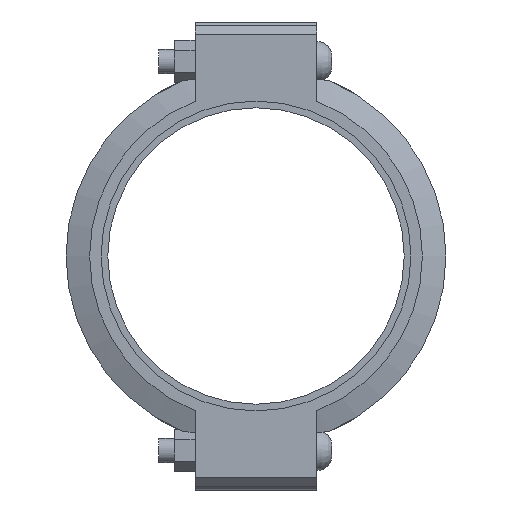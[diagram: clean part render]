
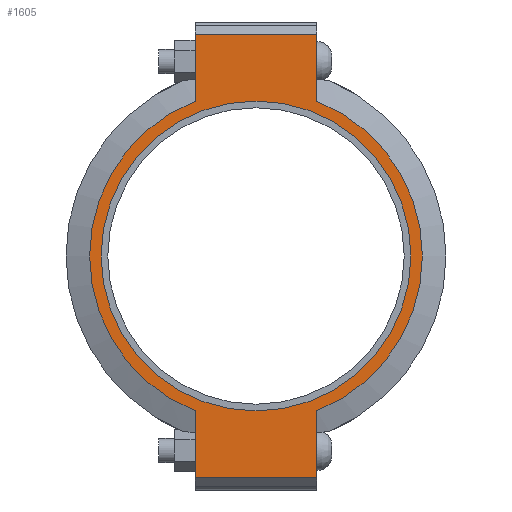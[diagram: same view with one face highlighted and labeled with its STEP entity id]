
A CAD part, left-side view. The second image highlights one B-rep face of the part: STEP entity #1605.
In plain terms, the highlighted planar face has unit normal (-1, 0, 0) as drawn and (0, 0, 1) by its records, which use the part's own axes.
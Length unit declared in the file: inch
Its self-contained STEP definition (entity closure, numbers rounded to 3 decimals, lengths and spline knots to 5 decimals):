
#176=LINE('',#2773,#265);
#187=LINE('',#2824,#276);
#193=LINE('',#2850,#282);
#195=LINE('',#2853,#284);
#196=LINE('',#2858,#285);
#197=LINE('',#2859,#286);
#265=VECTOR('',#2261,0.3937);
#276=VECTOR('',#2292,0.3937);
#282=VECTOR('',#2310,0.3937);
#284=VECTOR('',#2314,0.3937);
#285=VECTOR('',#2319,0.3937);
#286=VECTOR('',#2320,0.3937);
#348=FACE_BOUND('',#525,.T.);
#416=FACE_OUTER_BOUND('',#524,.T.);
#524=EDGE_LOOP('',(#1300,#1301,#1302,#1303,#1304,#1305,#1306,#1307));
#525=EDGE_LOOP('',(#1308));
#607=CIRCLE('',#1833,6.375);
#631=CIRCLE('',#1885,6.84375);
#632=CIRCLE('',#1886,6.84375);
#703=VERTEX_POINT('',#2599);
#744=VERTEX_POINT('',#2770);
#745=VERTEX_POINT('',#2772);
#762=VERTEX_POINT('',#2819);
#763=VERTEX_POINT('',#2823);
#770=VERTEX_POINT('',#2845);
#771=VERTEX_POINT('',#2849);
#772=VERTEX_POINT('',#2855);
#773=VERTEX_POINT('',#2857);
#867=EDGE_CURVE('',#703,#703,#607,.T.);
#924=EDGE_CURVE('',#745,#744,#176,.T.);
#945=EDGE_CURVE('',#763,#762,#187,.T.);
#956=EDGE_CURVE('',#771,#770,#193,.T.);
#958=EDGE_CURVE('',#771,#744,#195,.T.);
#959=EDGE_CURVE('',#770,#772,#631,.T.);
#960=EDGE_CURVE('',#772,#773,#196,.T.);
#961=EDGE_CURVE('',#763,#773,#197,.T.);
#962=EDGE_CURVE('',#762,#745,#632,.T.);
#1300=ORIENTED_EDGE('',*,*,#958,.F.);
#1301=ORIENTED_EDGE('',*,*,#956,.T.);
#1302=ORIENTED_EDGE('',*,*,#959,.T.);
#1303=ORIENTED_EDGE('',*,*,#960,.T.);
#1304=ORIENTED_EDGE('',*,*,#961,.F.);
#1305=ORIENTED_EDGE('',*,*,#945,.T.);
#1306=ORIENTED_EDGE('',*,*,#962,.T.);
#1307=ORIENTED_EDGE('',*,*,#924,.T.);
#1308=ORIENTED_EDGE('',*,*,#867,.T.);
#1445=PLANE('',#1884);
#1605=ADVANCED_FACE('',(#416,#348),#1445,.T.);
#1833=AXIS2_PLACEMENT_3D('',#2601,#2151,#2152);
#1884=AXIS2_PLACEMENT_3D('',#2854,#2315,#2316);
#1885=AXIS2_PLACEMENT_3D('',#2856,#2317,#2318);
#1886=AXIS2_PLACEMENT_3D('',#2860,#2321,#2322);
#2151=DIRECTION('center_axis',(0.,0.,-1.));
#2152=DIRECTION('ref_axis',(-1.,0.,0.));
#2261=DIRECTION('',(-1.,0.,0.));
#2292=DIRECTION('',(-1.,0.,0.));
#2310=DIRECTION('',(1.,0.,0.));
#2314=DIRECTION('',(0.,1.,0.));
#2315=DIRECTION('center_axis',(0.,0.,1.));
#2316=DIRECTION('ref_axis',(1.,0.,0.));
#2317=DIRECTION('center_axis',(0.,0.,1.));
#2318=DIRECTION('ref_axis',(-1.,0.,0.));
#2319=DIRECTION('',(1.,0.,0.));
#2320=DIRECTION('',(0.,-1.,0.));
#2321=DIRECTION('center_axis',(0.,0.,1.));
#2322=DIRECTION('ref_axis',(-1.,0.,0.));
#2599=CARTESIAN_POINT('',(6.375,0.,1.315));
#2601=CARTESIAN_POINT('Origin',(0.,0.,1.315));
#2770=CARTESIAN_POINT('',(-9.125,2.5,1.315));
#2772=CARTESIAN_POINT('',(-6.37079,2.5,1.315));
#2773=CARTESIAN_POINT('',(9.625,2.5,1.315));
#2819=CARTESIAN_POINT('',(6.37079,2.5,1.315));
#2823=CARTESIAN_POINT('',(9.125,2.5,1.315));
#2824=CARTESIAN_POINT('',(9.625,2.5,1.315));
#2845=CARTESIAN_POINT('',(-6.37079,-2.5,1.315));
#2849=CARTESIAN_POINT('',(-9.125,-2.5,1.315));
#2850=CARTESIAN_POINT('',(-9.625,-2.5,1.315));
#2853=CARTESIAN_POINT('',(-9.125,1.25,1.315));
#2854=CARTESIAN_POINT('Origin',(0.,0.,
1.315));
#2855=CARTESIAN_POINT('',(6.37079,-2.5,1.315));
#2856=CARTESIAN_POINT('Origin',(0.,0.,1.315));
#2857=CARTESIAN_POINT('',(9.125,-2.5,1.315));
#2858=CARTESIAN_POINT('',(-9.625,-2.5,1.315));
#2859=CARTESIAN_POINT('',(9.125,-1.25,1.315));
#2860=CARTESIAN_POINT('Origin',(0.,0.,1.315));
